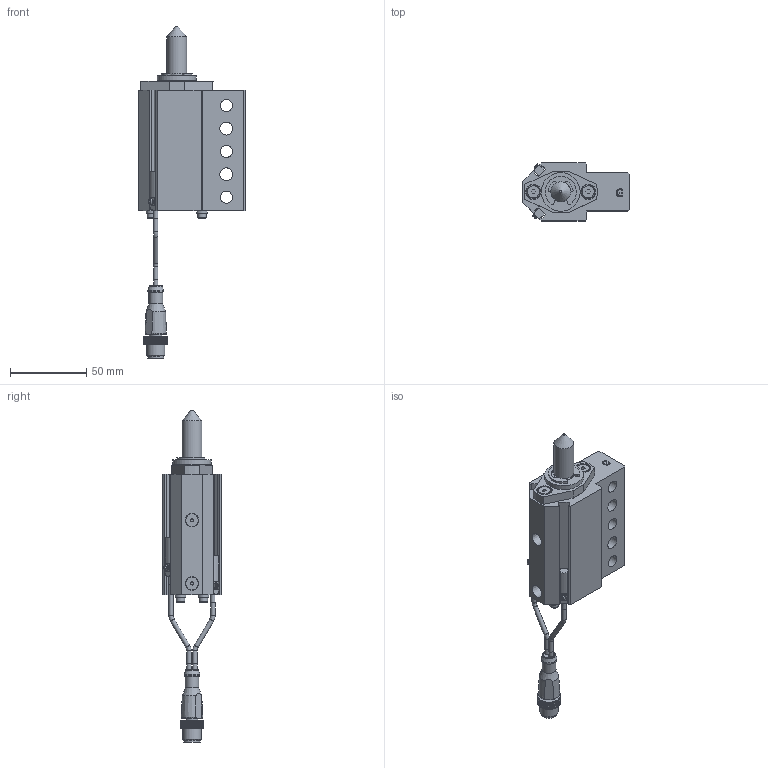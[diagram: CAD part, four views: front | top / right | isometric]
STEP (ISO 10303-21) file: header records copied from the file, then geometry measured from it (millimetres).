
FILE_DESCRIPTION(/* description */ ('NAAMS FLOATING MICRO PIN'),/* implementation_level */ '2;1');
FILE_NAME(/* name */ 'C:\Vault Workspace\CAD\Welker\Shot Pin\NMP\NMP130022AGNL3.stp',/* time_stamp */ '2021-01-27T10:56:39-05:00',/* author */ ('WELKER'),/* organization */ (''),/* preprocessor_version */ 'ST-DEVELOPER v18.1',/* originating_system */ 'Autodesk Inventor 2020',/* authorisation */ '');
FILE_SCHEMA (('AUTOMOTIVE_DESIGN { 1 0 10303 214 3 1 1 }'));
Length unit declared in the file: millimetre
Products named in the file (16): NMPL01; NMP L3 SWITCH; L3 Connector; L3 Sensor 1; L3 Sensor 2; L3 Sensor cable; L3 Sensor cable 2; M3X0.5-8 SHCS; NL3; NMPE06; NMPE03; NMPE05-DIA-LENGTH; 985432A218; NMPE01G-PORT; RMPE02; M5X5 SHOULDER
Assembly tree (22 placements, depth 3):
  NMPL01
    NMP L3 SWITCH
      L3 Connector
      L3 Sensor 1
      L3 Sensor 2
      L3 Sensor cable
      L3 Sensor cable 2
    M3X0.5-8 SHCS  x4
    NL3  x4
    NMPE06
    NMPE03
    NMPE05-DIA-LENGTH
    985432A218
    NMPE01G-PORT
    RMPE02
    M5X5 SHOULDER  x2
Bounding box: 70 x 38.1 x 217.71 mm (x, y, z)
Volume: 134093.3 mm3; surface area: 49994.4 mm2
Topology: 21 solids, 21 shells, 758 faces, 2085 edges, 1398 vertices
Faces by surface type: plane 545, cylinder 148, cone 35, bspline 16, torus 11, sphere 3
Full cylindrical faces by diameter (mm): 2 x2, 2.459 x4, 2.9 x10, 3 x5, 3.242 x2, 3.4 x4, 4 x2, 5 x6, 5.5 x4, 6.647 x2, 7 x4, 8 x5, 8.3 x2, 8.5 x2, 9 x3, 10 x3, 10.4 x1, 10.5 x1, 12 x1, 13 x3, 16 x2, 19.05 x3, 21 x1, 22.5 x1, 23.673 x1, 24 x1, 25.4 x1, 25.5 x1, 26.5 x1, 28.677 x1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
Entity records: 23720 total; most frequent: CARTESIAN_POINT 4677, ORIENTED_EDGE 3860, DIRECTION 3758, EDGE_CURVE 1930, LINE 1390, VECTOR 1390, VERTEX_POINT 1303, AXIS2_PLACEMENT_3D 1184
